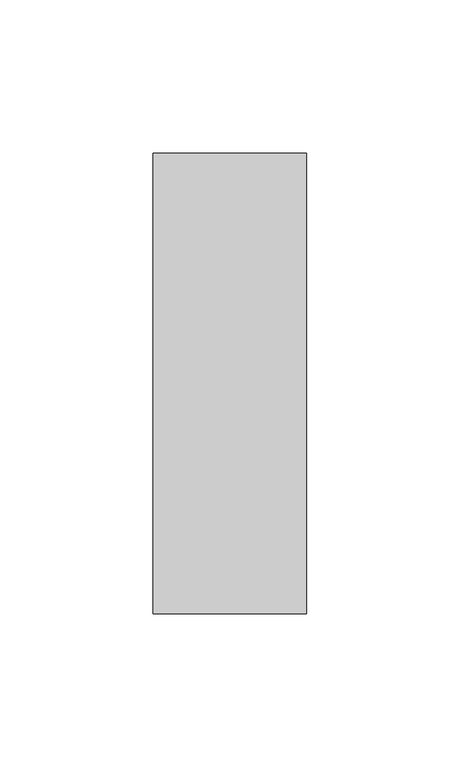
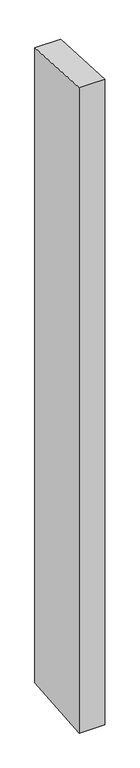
"""IFC4 building model written with IfcOpenShell, lengths in millimetres: member geometry, Прямоугольный импост : 50 x 150 мм."""

from ifc_helpers import new_model, si_unit, origin, place, context, project, spatial, faceted_brep, source, transform, mapped, element, save


def member_362d6bc2(model_context):
    return source(origin(), model_context, "Body", "Brep", [
        faceted_brep([(-25.0, 75.0, -4.4713265), (25.0, 75.0, -4.3336875), (25.0, 75.0, -1313.0689508), (-25.0, 75.0, -1312.9452265), (-25.0, -75.0, 4.3336875), (-25.0, -75.0, -1325.9407175), (25.0, -75.0, 4.4713265), (25.0, -75.0, -1326.0644419)], [[[0, 1, 2, 3]], [[4, 0, 3, 5]], [[6, 4, 5, 7]], [[1, 6, 7, 2]], [[1, 0, 4, 6]], [[2, 7, 5, 3]]]),
    ])


if __name__ == "__main__":
    model = new_model("IFC4")
    model_context = context("Model", 3, world=origin())
    ifc_project = project(units=[si_unit("LENGTHUNIT", "METRE", prefix="MILLI")], contexts=[model_context])
    site = spatial("IfcSite", under=ifc_project)
    building = spatial("IfcBuilding", under=site)
    placement = place(None, origin())
    member_shape = member_362d6bc2(model_context)
    element("IfcMember", 1, ObjectType="Прямоугольный импост : 50 x 150 мм", at=placement, inside=building, context=model_context, shape_type="MappedRepresentation", body=[
        mapped(member_shape, transform((0.0, 0.0, 0.0), x_axis=(1.0, 0.0, 0.0), y_axis=(0.0, 1.0, 0.0), z_axis=(0.0, 0.0, 1.0))),
    ])
    save(model, "model.ifc")
